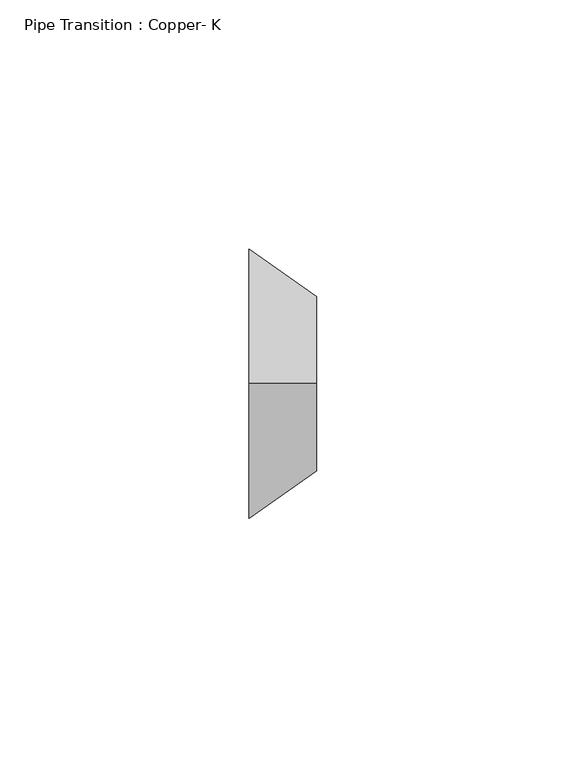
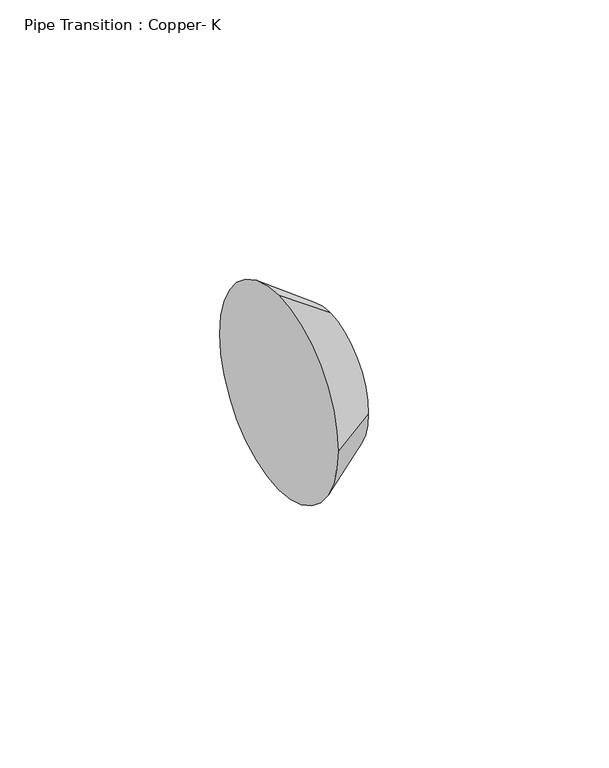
"""IFC4 building model written with IfcOpenShell, lengths in millimetres: pipe fitting geometry, Pipe Transition : Copper- K."""

from ifc_helpers import new_model, si_unit, frame, origin, place, context, project, spatial, polyline, circle_curve, source, transform, mapped, element, save
from ifc_brep_helpers import plane_surface, revolved_surface, advanced_brep


def pipe_transition_copper_k_83c73321(model_context):
    return source(origin(), model_context, "Body", "AdvancedBrep", [
        advanced_brep(
        [(13.49375, 0.0, 17.4625), (13.49375, -17.4625, 0.0), (13.49375, 0.0, -17.4625), (13.49375, 17.4625, 0.0), (0.0, 0.0, 26.9875), (0.0, 26.9875, 0.0), (0.0, 0.0, -26.9875), (0.0, -26.9875, 0.0)],
        [
            (0, 1, circle_curve(frame((13.49375, 0.0, 0.0), z_axis=(1.0, 0.0, 0.0), x_axis=(0.0, 0.0, 1.0)), 17.4625)),
            (1, 2, circle_curve(frame((13.49375, 0.0, 0.0), z_axis=(1.0, 0.0, 0.0), x_axis=(0.0, -1.0, 0.0)), 17.4625)),
            (2, 3, circle_curve(frame((13.49375, 0.0, 0.0), z_axis=(1.0, 0.0, 0.0), x_axis=(0.0, 0.0, -1.0)), 17.4625)),
            (3, 0, circle_curve(frame((13.49375, 0.0, 0.0), z_axis=(1.0, 0.0, 0.0), x_axis=(0.0, 1.0, 0.0)), 17.4625)),
            (4, 5, circle_curve(frame((0.0, 0.0, 0.0), z_axis=(-1.0, 0.0, 0.0), x_axis=(0.0, 1.0, 0.0)), 26.9875)),
            (5, 6, circle_curve(frame((0.0, 0.0, 0.0), z_axis=(-1.0, 0.0, 0.0), x_axis=(0.0, 0.0, -1.0)), 26.9875)),
            (6, 7, circle_curve(frame((0.0, 0.0, 0.0), z_axis=(-1.0, 0.0, 0.0), x_axis=(0.0, -1.0, 0.0)), 26.9875)),
            (7, 4, circle_curve(frame((0.0, 0.0, 0.0), z_axis=(-1.0, 0.0, 0.0), x_axis=(0.0, 0.0, 1.0)), 26.9875)),
            (7, 1),
            (0, 4),
            (6, 2),
            (5, 3),
        ],
        [
            plane_surface(frame((13.49375, 0.0, 0.0), z_axis=(1.0, 0.0, 0.0), x_axis=(0.0, -1.0, 0.0))),
            plane_surface(frame((0.0, 0.0, 0.0), z_axis=(-1.0, 0.0, 0.0), x_axis=(0.0, -1.0, 0.0))),
            revolved_surface(polyline([(13.493749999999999, 0.0, 17.4625000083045), (0.0, 0.0, 26.9875)]), (38.2322917, 0.0, 0.0), (-1.0, 0.0, 0.0)),
            revolved_surface(polyline([(13.493749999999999, -17.4625000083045, 0.0), (0.0, -26.9875, 0.0)]), (38.2322917, 0.0, 0.0), (-1.0, 0.0, 0.0)),
            revolved_surface(polyline([(13.493749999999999, 0.0, -17.4625000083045), (0.0, 0.0, -26.9875)]), (38.2322917, 0.0, 0.0), (-1.0, 0.0, 0.0)),
            revolved_surface(polyline([(13.493749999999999, 17.4625000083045, 0.0), (0.0, 26.9875, 0.0)]), (38.2322917, 0.0, 0.0), (-1.0, 0.0, 0.0)),
        ],
        [
            (0, [[1, 2, 3, 4]]),
            (1, [[5, 6, 7, 8]]),
            (2, [[-8, 9, -1, 10]]),
            (3, [[-7, 11, -2, -9]]),
            (4, [[-6, 12, -3, -11]]),
            (5, [[-5, -10, -4, -12]]),
        ],
    ),
        advanced_brep(
        [(13.49375, 0.0, 17.4625), (13.49375, -17.4625, 0.0), (13.49375, 0.0, -17.4625), (13.49375, 17.4625, 0.0), (0.0, 0.0, 26.9875), (0.0, 26.9875, 0.0), (0.0, 0.0, -26.9875), (0.0, -26.9875, 0.0)],
        [
            (0, 1, circle_curve(frame((13.49375, 0.0, 0.0), z_axis=(1.0, 0.0, 0.0), x_axis=(0.0, 0.0, 1.0)), 17.4625)),
            (1, 2, circle_curve(frame((13.49375, 0.0, 0.0), z_axis=(1.0, 0.0, 0.0), x_axis=(0.0, -1.0, 0.0)), 17.4625)),
            (2, 3, circle_curve(frame((13.49375, 0.0, 0.0), z_axis=(1.0, 0.0, 0.0), x_axis=(0.0, 0.0, -1.0)), 17.4625)),
            (3, 0, circle_curve(frame((13.49375, 0.0, 0.0), z_axis=(1.0, 0.0, 0.0), x_axis=(0.0, 1.0, 0.0)), 17.4625)),
            (4, 5, circle_curve(frame((0.0, 0.0, 0.0), z_axis=(-1.0, 0.0, 0.0), x_axis=(0.0, 1.0, 0.0)), 26.9875)),
            (5, 6, circle_curve(frame((0.0, 0.0, 0.0), z_axis=(-1.0, 0.0, 0.0), x_axis=(0.0, 0.0, -1.0)), 26.9875)),
            (6, 7, circle_curve(frame((0.0, 0.0, 0.0), z_axis=(-1.0, 0.0, 0.0), x_axis=(0.0, -1.0, 0.0)), 26.9875)),
            (7, 4, circle_curve(frame((0.0, 0.0, 0.0), z_axis=(-1.0, 0.0, 0.0), x_axis=(0.0, 0.0, 1.0)), 26.9875)),
            (7, 1),
            (0, 4),
            (6, 2),
            (5, 3),
        ],
        [
            plane_surface(frame((13.49375, 0.0, 0.0), z_axis=(1.0, 0.0, 0.0), x_axis=(0.0, -1.0, 0.0))),
            plane_surface(frame((0.0, 0.0, 0.0), z_axis=(-1.0, 0.0, 0.0), x_axis=(0.0, -1.0, 0.0))),
            revolved_surface(polyline([(13.493749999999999, 0.0, 17.4625000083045), (0.0, 0.0, 26.9875)]), (38.2322917, 0.0, 0.0), (-1.0, 0.0, 0.0)),
            revolved_surface(polyline([(13.493749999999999, -17.4625000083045, 0.0), (0.0, -26.9875, 0.0)]), (38.2322917, 0.0, 0.0), (-1.0, 0.0, 0.0)),
            revolved_surface(polyline([(13.493749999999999, 0.0, -17.4625000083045), (0.0, 0.0, -26.9875)]), (38.2322917, 0.0, 0.0), (-1.0, 0.0, 0.0)),
            revolved_surface(polyline([(13.493749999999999, 17.4625000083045, 0.0), (0.0, 26.9875, 0.0)]), (38.2322917, 0.0, 0.0), (-1.0, 0.0, 0.0)),
        ],
        [
            (0, [[1, 2, 3, 4]]),
            (1, [[5, 6, 7, 8]]),
            (2, [[-8, 9, -1, 10]]),
            (3, [[-7, 11, -2, -9]]),
            (4, [[-6, 12, -3, -11]]),
            (5, [[-5, -10, -4, -12]]),
        ],
    ),
    ])


if __name__ == "__main__":
    model = new_model("IFC4")
    model_context = context("Model", 3, world=origin())
    ifc_project = project(units=[si_unit("LENGTHUNIT", "METRE", prefix="MILLI")], contexts=[model_context])
    site = spatial("IfcSite", under=ifc_project)
    building = spatial("IfcBuilding", under=site)
    placement = place(None, origin())
    pipe_transition_copper_k_shape = pipe_transition_copper_k_83c73321(model_context)
    element("IfcPipeFitting", 1, ObjectType="Pipe Transition : Copper- K", at=placement, inside=building, context=model_context, shape_type="MappedRepresentation", body=[
        mapped(pipe_transition_copper_k_shape, transform((0.0, 0.0, 0.0), x_axis=(1.0, 0.0, 0.0), y_axis=(0.0, 1.0, 0.0), z_axis=(0.0, 0.0, 1.0))),
    ])
    save(model, "model.ifc")
